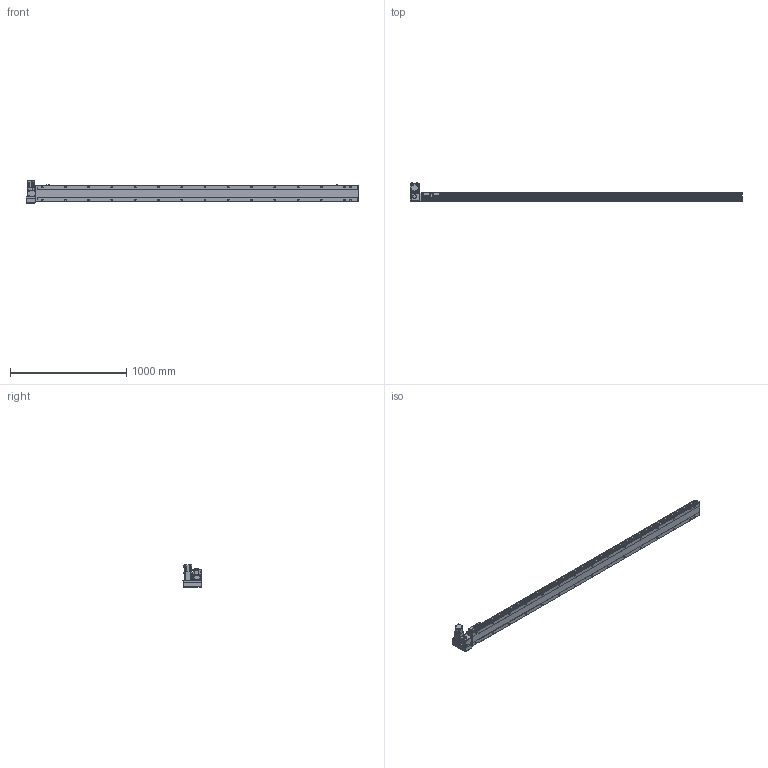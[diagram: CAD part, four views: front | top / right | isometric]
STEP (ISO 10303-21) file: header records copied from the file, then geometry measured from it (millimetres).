
FILE_DESCRIPTION( ( 'STEP AP214' ), '1' );
FILE_NAME( 'x:/temp/worker_1/temp/exporttempdir_5824_46_XmPFY/format_0/PBS140-P40-S2500-LU-T40-C1-N(0).stp', '2022-06-07T05:19:00', ( 'License CC BY-ND 4.0' ), ( 'CADENAS' ), ' ', 'PARTsolutions', ' ' );
FILE_SCHEMA( ( 'AUTOMOTIVE_DESIGN { 1 0 10303 214 1 1 1 1 }' ) );
Length unit declared in the file: millimetre
Products named in the file (7): PBS140-P40-S2500-LU-T40-C1-N(0); _PBS140-S2500()_body; _PBS140T-LU_motors; _T40-p1; _PBS140_sliser; _PBS140_plant; _PBS140_sensor
Assembly tree (8 placements, depth 2):
  PBS140-P40-S2500-LU-T40-C1-N(0)
    _PBS140-S2500()_body
    _PBS140T-LU_motors
    _T40-p1
    _PBS140_sliser
    _PBS140_plant
    _PBS140_sensor  x3
Bounding box: 2854 x 162.5 x 189.7 mm (x, y, z)
Volume: 12798870.8 mm3; surface area: 2180704.1 mm2
Topology: 8 solids, 8 shells, 1187 faces, 3116 edges, 2035 vertices
Faces by surface type: plane 734, cylinder 387, cone 56, sphere 8, torus 2
Full cylindrical faces by diameter (mm): 3.242 x4, 4 x2, 4.134 x4, 4.4 x8, 4.5 x2, 4.8 x4, 4.917 x38, 5.5 x7, 6 x2, 7 x32, 7.5 x8, 8 x12, 8.5 x4, 10.5 x30, 14 x1, 30 x2, 50 x2
Entity records: 43783 total; most frequent: CARTESIAN_POINT 7427, DIRECTION 5687, ORIENTED_EDGE 5332, EDGE_CURVE 2666, AXIS2_PLACEMENT_3D 2017, VERTEX_POINT 1869, LINE 1653, VECTOR 1653
